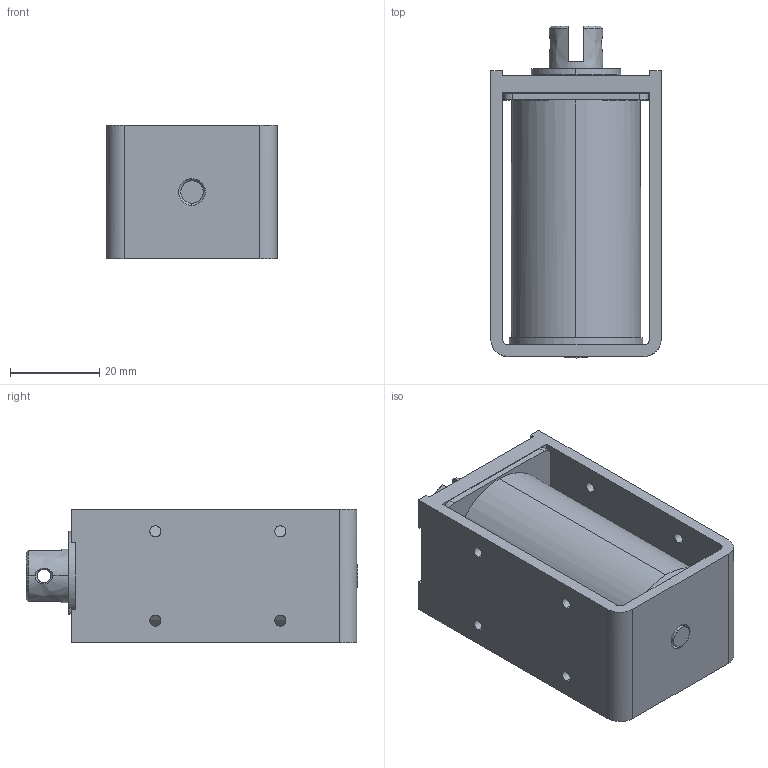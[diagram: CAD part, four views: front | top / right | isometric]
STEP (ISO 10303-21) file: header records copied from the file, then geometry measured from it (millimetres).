
FILE_DESCRIPTION (( 'STEP AP203' ), '1' );
FILE_NAME ('w_CA1264A.STEP', '2021-05-21T01:25:07', ( '' ), ( '' ), 'SwSTEP 2.0', 'SolidWorks 2018', '' );
FILE_SCHEMA (( 'CONFIG_CONTROL_DESIGN' ));
Length unit declared in the file: millimetre
Products named in the file (1): w_CA1264A
Bounding box: 38.2 x 74.4 x 30 mm (x, y, z)
Volume: 55085.3 mm3; surface area: 22959.5 mm2
Topology: 2 solids, 2 shells, 127 faces, 351 edges, 230 vertices
Faces by surface type: bspline 127
Entity records: 5400 total; most frequent: CARTESIAN_POINT 3271, ORIENTED_EDGE 702, EDGE_CURVE 351, B_SPLINE_CURVE_WITH_KNOTS 258, VERTEX_POINT 230, EDGE_LOOP 159, FACE_OUTER_BOUND 127, ADVANCED_FACE 127
